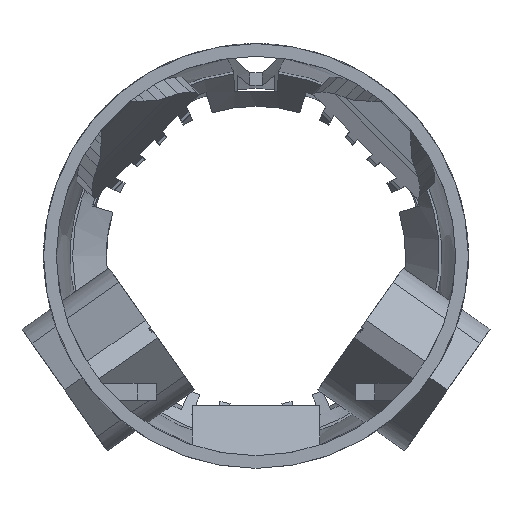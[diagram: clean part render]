
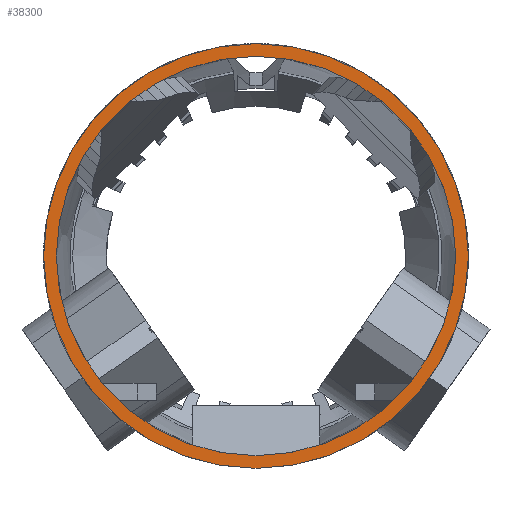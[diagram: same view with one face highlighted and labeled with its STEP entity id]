
A CAD part, left-side view. The second image highlights one B-rep face of the part: STEP entity #38300.
In plain terms, the highlighted planar face has unit normal (-1, 0, 0).
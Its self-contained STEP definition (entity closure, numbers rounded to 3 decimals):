
#21 = EDGE_CURVE('',#22,#22,#24,.T.);
#22 = VERTEX_POINT('',#23);
#23 = CARTESIAN_POINT('',(350.,20.,0.));
#24 = SURFACE_CURVE('',#25,(#30,#42),.PCURVE_S1.);
#25 = CIRCLE('',#26,20.);
#26 = AXIS2_PLACEMENT_3D('',#27,#28,#29);
#27 = CARTESIAN_POINT('',(350.,0.,0.));
#28 = DIRECTION('',(1.,0.,0.));
#29 = DIRECTION('',(-0.,1.,0.));
#30 = PCURVE('',#31,#36);
#31 = CYLINDRICAL_SURFACE('',#32,20.);
#32 = AXIS2_PLACEMENT_3D('',#33,#34,#35);
#33 = CARTESIAN_POINT('',(42.,0.,0.));
#34 = DIRECTION('',(1.,0.,0.));
#35 = DIRECTION('',(-0.,1.,0.));
#36 = DEFINITIONAL_REPRESENTATION('',(#37),#41);
#37 = LINE('',#38,#39);
#38 = CARTESIAN_POINT('',(0.,308.));
#39 = VECTOR('',#40,1.);
#40 = DIRECTION('',(1.,0.));
#41 = ( GEOMETRIC_REPRESENTATION_CONTEXT(2) 
PARAMETRIC_REPRESENTATION_CONTEXT() REPRESENTATION_CONTEXT('2D SPACE',''
  ) );
#42 = PCURVE('',#43,#48);
#43 = PLANE('',#44);
#44 = AXIS2_PLACEMENT_3D('',#45,#46,#47);
#45 = CARTESIAN_POINT('',(350.,-60.,-120.));
#46 = DIRECTION('',(1.,0.,-0.));
#47 = DIRECTION('',(0.,0.,1.));
#48 = DEFINITIONAL_REPRESENTATION('',(#49),#53);
#49 = CIRCLE('',#50,20.);
#50 = AXIS2_PLACEMENT_2D('',#51,#52);
#51 = CARTESIAN_POINT('',(120.,-60.));
#52 = DIRECTION('',(0.,-1.));
#53 = ( GEOMETRIC_REPRESENTATION_CONTEXT(2) 
PARAMETRIC_REPRESENTATION_CONTEXT() REPRESENTATION_CONTEXT('2D SPACE',''
  ) );
#4588 = CYLINDRICAL_SURFACE('',#4589,18.8);
#4589 = AXIS2_PLACEMENT_3D('',#4590,#4591,#4592);
#4590 = CARTESIAN_POINT('',(42.,0.,0.));
#4591 = DIRECTION('',(1.,0.,0.));
#4592 = DIRECTION('',(-0.,1.,0.));
#8288 = VERTEX_POINT('',#8289);
#8289 = CARTESIAN_POINT('',(350.,18.8,0.));
#8310 = EDGE_CURVE('',#8288,#8288,#8311,.T.);
#8311 = SURFACE_CURVE('',#8312,(#8317,#8324),.PCURVE_S1.);
#8312 = CIRCLE('',#8313,18.8);
#8313 = AXIS2_PLACEMENT_3D('',#8314,#8315,#8316);
#8314 = CARTESIAN_POINT('',(350.,0.,0.));
#8315 = DIRECTION('',(1.,0.,0.));
#8316 = DIRECTION('',(-0.,1.,0.));
#8317 = PCURVE('',#4588,#8318);
#8318 = DEFINITIONAL_REPRESENTATION('',(#8319),#8323);
#8319 = LINE('',#8320,#8321);
#8320 = CARTESIAN_POINT('',(0.,308.));
#8321 = VECTOR('',#8322,1.);
#8322 = DIRECTION('',(1.,0.));
#8323 = ( GEOMETRIC_REPRESENTATION_CONTEXT(2) 
PARAMETRIC_REPRESENTATION_CONTEXT() REPRESENTATION_CONTEXT('2D SPACE',''
  ) );
#8324 = PCURVE('',#43,#8325);
#8325 = DEFINITIONAL_REPRESENTATION('',(#8326),#8330);
#8326 = CIRCLE('',#8327,18.8);
#8327 = AXIS2_PLACEMENT_2D('',#8328,#8329);
#8328 = CARTESIAN_POINT('',(120.,-60.));
#8329 = DIRECTION('',(0.,-1.));
#8330 = ( GEOMETRIC_REPRESENTATION_CONTEXT(2) 
PARAMETRIC_REPRESENTATION_CONTEXT() REPRESENTATION_CONTEXT('2D SPACE',''
  ) );
#38300 = ADVANCED_FACE('',(#38301,#38304),#43,.F.);
#38301 = FACE_BOUND('',#38302,.F.);
#38302 = EDGE_LOOP('',(#38303));
#38303 = ORIENTED_EDGE('',*,*,#21,.T.);
#38304 = FACE_BOUND('',#38305,.F.);
#38305 = EDGE_LOOP('',(#38306));
#38306 = ORIENTED_EDGE('',*,*,#8310,.F.);
